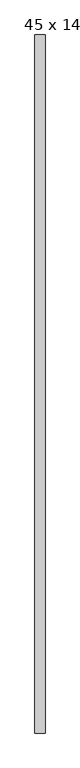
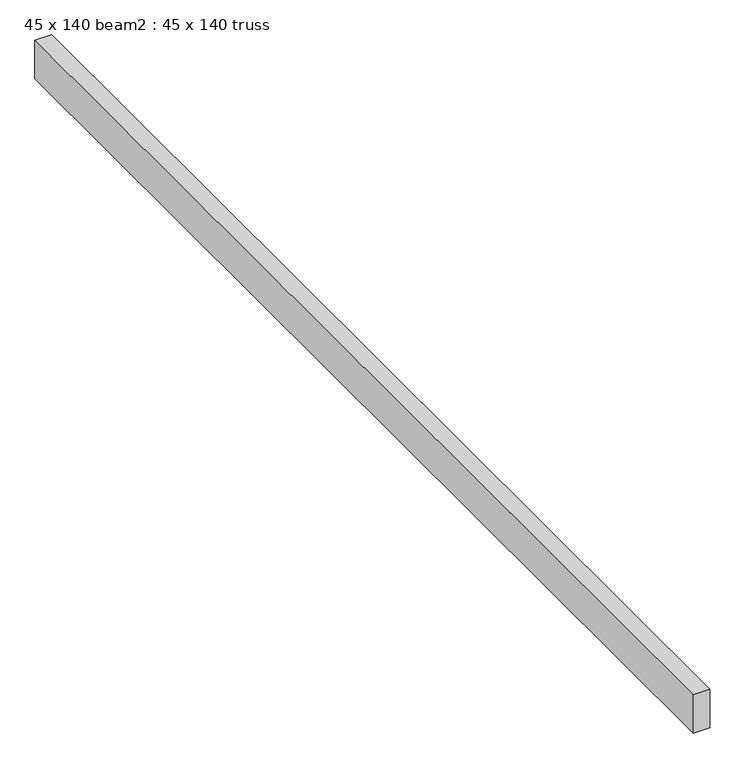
"""IFC4 building model written with IfcOpenShell, lengths in millimetres: proxy geometry, 45 x 140 beam2 : 45 x 140 truss."""

from ifc_helpers import new_model, si_unit, frame, origin, place, context, project, spatial, polyline, outline, extrude, source, transform, mapped, element, save


def proxy_45_x_140_beam2_45_x_140_truss_fb012f4a(model_context):
    return source(origin(), model_context, "Body", "SweptSolid", [
        extrude(outline(polyline([(40144.687938, -15336.9640915), (40099.687938, -15336.9640915), (40099.687938, -12246.9640915), (40144.687938, -12246.9640915), (40144.687938, -15336.9640915)])), frame((0.0, 0.0, 3675.1978483), z_axis=(0.0, 0.0, 1.0), x_axis=(1.0, 0.0, 0.0)), (0.0, 0.0, 1.0), 109.0474323),
    ])


if __name__ == "__main__":
    model = new_model("IFC4")
    model_context = context("Model", 3, world=origin())
    ifc_project = project(units=[si_unit("LENGTHUNIT", "METRE", prefix="MILLI")], contexts=[model_context])
    site = spatial("IfcSite", under=ifc_project)
    building = spatial("IfcBuilding", under=site)
    placement = place(None, origin())
    proxy_45_x_140_beam2_45_x_140_truss_shape = proxy_45_x_140_beam2_45_x_140_truss_fb012f4a(model_context)
    element("IfcBuildingElementProxy", 1, Name="45 x 140 beam2 : 45 x 140 truss", ObjectType="45 x 140 beam2 : 45 x 140 truss", at=placement, inside=building, context=model_context, shape_type="MappedRepresentation", body=[
        mapped(proxy_45_x_140_beam2_45_x_140_truss_shape, transform((0.0, 0.0, 0.0), x_axis=(1.0, 0.0, 0.0), y_axis=(0.0, 1.0, 0.0), z_axis=(0.0, 0.0, 1.0))),
    ])
    save(model, "model.ifc")
